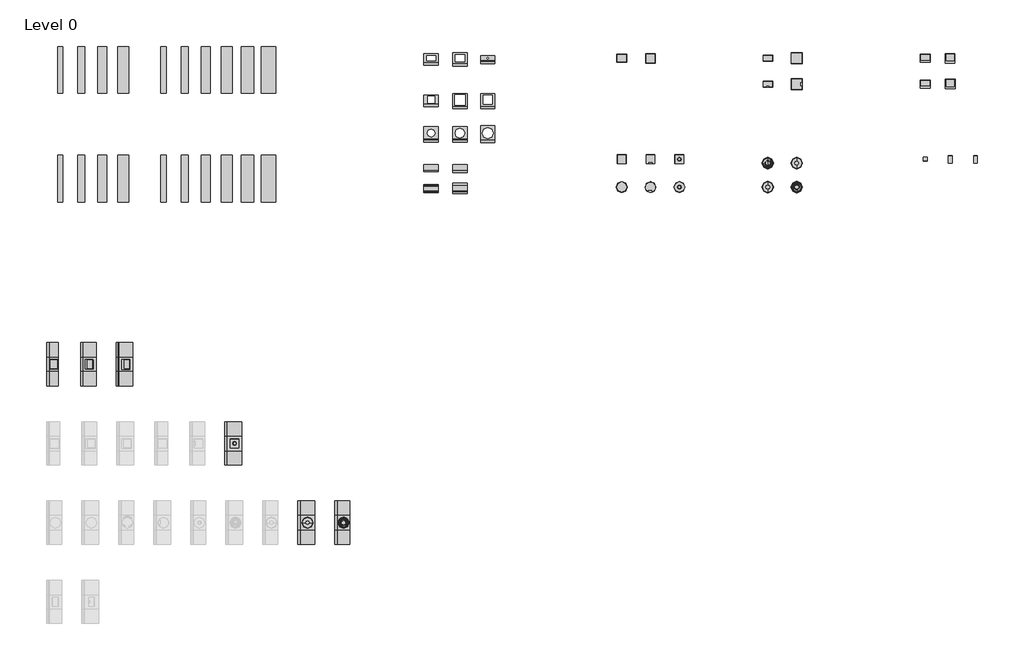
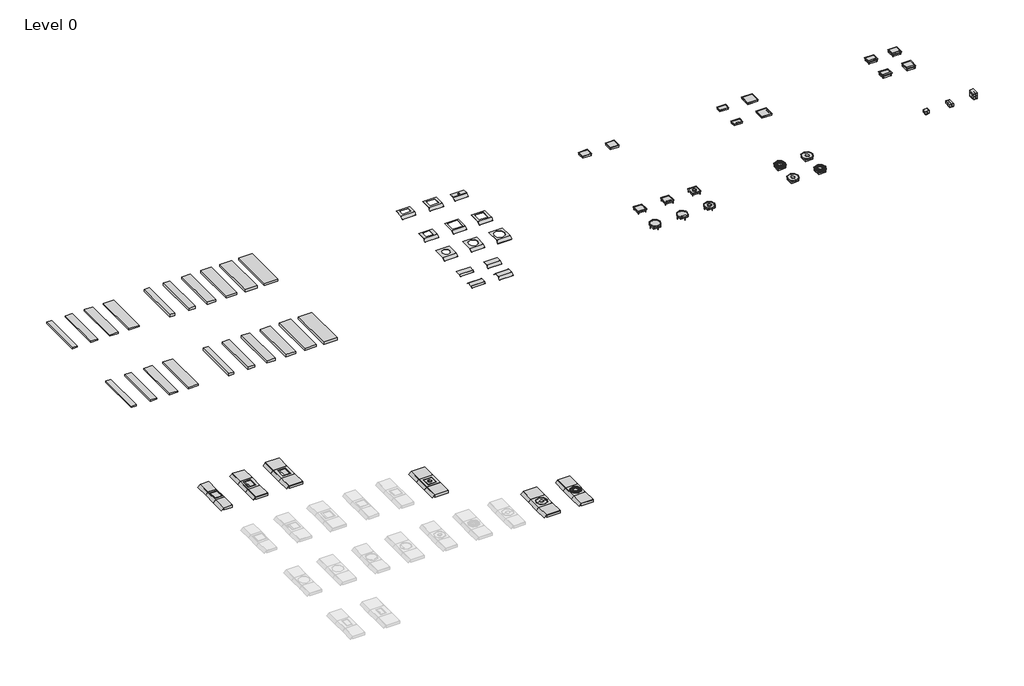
# One storey, part 2 of 2: 60 proxies, 26 cable carrier segments.
"""IFC4 building model written with IfcOpenShell, lengths in millimetres."""

from ifc_helpers import new_model, si_unit, frame, origin, place, context, project, spatial, polyline, outline, extrude, transform, mapped, element, save
from components import electrical_fixtures_814ce579, electrical_fixtures_1408edab, electrical_fixtures_f748b149, electrical_fixtures_7f43b690, electrical_fixtures_50cfb48d, electrical_fixtures_1099af83, electrical_fixtures_e29cb0aa, electrical_fixtures_057aeb0d, electrical_fixtures_bc096a6a, electrical_fixtures_bc675c06, electrical_fixtures_8ed366d0, electrical_fixtures_62458b07, electrical_fixtures_8427cab8, electrical_fixtures_ad2855bb, electrical_fixtures_be977d01, electrical_fixtures_2923e737, electrical_fixtures_30c5370d, electrical_fixtures_dd45cec8, electrical_fixtures_c0643166, electrical_fixtures_3a1a2a50, electrical_fixtures_6b5bff6d, electrical_fixtures_38a7e8f5, electrical_fixtures_79a94ea6, electrical_fixtures_345be723, electrical_fixtures_05cc857e, electrical_fixtures_ba14407c, electrical_fixtures_65cdaa76, electrical_fixtures_59ef84c7, electrical_fixtures_09e81cb8, color_deep_black_c4cdae59, color_deep_black_3e0b7094, color_deep_black_f01a6ed9, color_deep_black_c19cb628, color_deep_black_fa90bbad, color_deep_black_919f03ab, color_iron_grey_872dce2f, color_iron_grey_09ea9520, stainless_steel_cassette_q12_bl_outer_height_28mm_38aa1d54, stainless_steel_cassette_q12_le_outer_height_28mm_4387def9, stainless_steel_cassette_q12_tm_outer_height_28mm_6e70061e, stainless_steel_cassette_r12_bl_outer_height_28mm_40ef087e, stainless_steel_cassette_r12_le_outer_height_28mm_8af35c53, stainless_steel_cassette_r12_tm_outer_height_28mm_dc089dfa

model = new_model("IFC4")

# Units and contexts
model_context = context("Model", 3, world=origin())
ifc_project = project(units=[si_unit("LENGTHUNIT", "METRE", prefix="MILLI")], contexts=[model_context])

# Site, building, storey
site = spatial("IfcSite", under=ifc_project)
building = spatial("IfcBuilding", under=site)
storey = spatial("IfcBuildingStorey", under=building, Name="Level 0", Elevation=0.0)

# Proxies
placement = place(None, origin())
electrical_fixtures_shape = electrical_fixtures_814ce579(model_context)
element("IfcBuildingElementProxy", 1, Name="Electrical_Installation_Hager_Covers-With-Installation-Opening-Q12 : Electrical_Installation_Hager_Covers-With-Installation-Opening-Q12", ObjectType="Electrical_Installation_Hager_Covers-With-Installation-Opening-Q12 : Electrical_Installation_Hager_Covers-With-Installation-Opening-Q12", at=placement, inside=storey, context=model_context, shape_type="MappedRepresentation", body=[
    mapped(electrical_fixtures_shape, transform((-12658.3941097, 8330.9530457, 0.0), x_axis=(1.0, 0.0, 0.0), y_axis=(0.0, 1.0, 0.0), z_axis=(0.0, 0.0, 1.0))),
])
electrical_fixtures_2_shape = electrical_fixtures_1408edab(model_context)
element("IfcBuildingElementProxy", 2, Name="Electrical_Installation_Hager_Covers-With-Installation-Opening-Q12 : Electrical_Installation_Hager_Covers-With-Installation-Opening-Q12", ObjectType="Electrical_Installation_Hager_Covers-With-Installation-Opening-Q12 : Electrical_Installation_Hager_Covers-With-Installation-Opening-Q12", at=placement, inside=storey, context=model_context, shape_type="MappedRepresentation", body=[
    mapped(electrical_fixtures_2_shape, transform((-19489.0073184, -1020.0103905, 0.0), x_axis=(0.0, -1.0, 0.0), y_axis=(1.0, 0.0, 0.0), z_axis=(0.0, 0.0, 1.0))),
])
electrical_fixtures_3_shape = electrical_fixtures_f748b149(model_context)
element("IfcBuildingElementProxy", 3, Name="Electrical_Installation_Hager_Blank-Cover-400mm-Single-Sided-Height-40mm : Electrical_Installation_Hager_Blank-Cover-400mm-Single-Sided-Height-40mm", ObjectType="Electrical_Installation_Hager_Blank-Cover-400mm-Single-Sided-Height-40mm : Electrical_Installation_Hager_Blank-Cover-400mm-Single-Sided-Height-40mm", at=placement, inside=storey, context=model_context, shape_type="MappedRepresentation", body=[
    mapped(electrical_fixtures_3_shape, transform((-14229.7859667, 6453.397014, 0.0), x_axis=(1.0, 0.0, 0.0), y_axis=(0.0, 1.0, 0.0), z_axis=(0.0, 0.0, 1.0))),
])
electrical_fixtures_4_shape = electrical_fixtures_7f43b690(model_context)
element("IfcBuildingElementProxy", 4, Name="Electrical_Installation_Hager_Blank-Cover-400mm-Double-Sided-Height-40mm : Electrical_Installation_Hager_Blank-Cover-400mm-Double-Sided-Height-40mm", ObjectType="Electrical_Installation_Hager_Blank-Cover-400mm-Double-Sided-Height-40mm : Electrical_Installation_Hager_Blank-Cover-400mm-Double-Sided-Height-40mm", at=placement, inside=storey, context=model_context, shape_type="MappedRepresentation", body=[
    mapped(electrical_fixtures_4_shape, transform((-14229.7859667, 5863.3856687, 0.0), x_axis=(1.0, 0.0, 0.0), y_axis=(0.0, 1.0, 0.0), z_axis=(0.0, 0.0, 1.0))),
])
electrical_fixtures_5_shape = electrical_fixtures_50cfb48d(model_context)
element("IfcBuildingElementProxy", 5, Name="Electrical_Installation_Hager_Blank-Cover-400mm-Single-Sided-Height-70mm : Electrical_Installation_Hager_Blank-Cover-400mm-Single-Sided-Height-70mm", ObjectType="Electrical_Installation_Hager_Blank-Cover-400mm-Single-Sided-Height-70mm : Electrical_Installation_Hager_Blank-Cover-400mm-Single-Sided-Height-70mm", at=placement, inside=storey, context=model_context, shape_type="MappedRepresentation", body=[
    mapped(electrical_fixtures_5_shape, transform((-13429.9997932, 6453.397014, 0.0), x_axis=(1.0, 0.0, 0.0), y_axis=(0.0, 1.0, 0.0), z_axis=(0.0, 0.0, 1.0))),
])
electrical_fixtures_6_shape = electrical_fixtures_1099af83(model_context)
element("IfcBuildingElementProxy", 6, Name="Electrical_Installation_Hager_Blank-Cover-400mm-Double-Sided-Height-70mm : Electrical_Installation_Hager_Blank-Cover-400mm-Double-Sided-Height-70mm", ObjectType="Electrical_Installation_Hager_Blank-Cover-400mm-Double-Sided-Height-70mm : Electrical_Installation_Hager_Blank-Cover-400mm-Double-Sided-Height-70mm", at=placement, inside=storey, context=model_context, shape_type="MappedRepresentation", body=[
    mapped(electrical_fixtures_6_shape, transform((-13429.9997932, 5863.3856687, 0.0), x_axis=(1.0, 0.0, 0.0), y_axis=(0.0, 1.0, 0.0), z_axis=(0.0, 0.0, 1.0))),
])
electrical_fixtures_7_shape = electrical_fixtures_e29cb0aa(model_context)
element("IfcBuildingElementProxy", 7, Name="Electrical_Installation_Hager_VE-EE_VANR_3mm_Service-unit-for-wet-cleaned-floors-for-the-installation-tube-cable-outlet-made-of-aluminium : Service unit R12 w set HB wet Al-Tub 3mm", ObjectType="Electrical_Installation_Hager_VE-EE_VANR_3mm_Service-unit-for-wet-cleaned-floors-for-the-installation-tube-cable-outlet-made-of-aluminium : Service unit R12 w set HB wet Al-Tub 3mm", at=placement, inside=storey, context=model_context, shape_type="MappedRepresentation", body=[
    mapped(electrical_fixtures_7_shape, transform((-4682.6162347, 5905.3165763, 0.0), x_axis=(1.0, 0.0, 0.0), y_axis=(0.0, 1.0, 0.0), z_axis=(0.0, 0.0, 1.0))),
])
element("IfcBuildingElementProxy", 8, Name="Electrical_Installation_Hager_VE-EE_VANR_3mm_Service-unit-for-wet-cleaned-floors-with-tube-cable-outlete-made-of-polyamide : Service unit R12 w set HB wet PA-T Al 3mm", ObjectType="Electrical_Installation_Hager_VE-EE_VANR_3mm_Service-unit-for-wet-cleaned-floors-with-tube-cable-outlete-made-of-polyamide : Service unit R12 w set HB wet PA-T Al 3mm", at=placement, inside=storey, context=model_context, shape_type="MappedRepresentation", body=[
    mapped(electrical_fixtures_7_shape, transform((-3882.6162347, 6567.9548196, 0.0), x_axis=(1.0, 0.0, 0.0), y_axis=(0.0, 1.0, 0.0), z_axis=(0.0, 0.0, 1.0))),
])
element("IfcBuildingElementProxy", 9, Name="Electrical_Installation_Hager_VE-EE_VANR_3mm_Service-unit-for-wet-cleaned-floors-with-tube-cable-outlete-made-of-polyamide : Service unit R12 w set HB wet PA-T Al 3mm", ObjectType="Electrical_Installation_Hager_VE-EE_VANR_3mm_Service-unit-for-wet-cleaned-floors-with-tube-cable-outlete-made-of-polyamide : Service unit R12 w set HB wet PA-T Al 3mm", at=placement, inside=storey, context=model_context, shape_type="MappedRepresentation", body=[
    mapped(electrical_fixtures_7_shape, transform((-17464.0073184, -3420.0103905, 40.5), x_axis=(0.0, -1.0, 0.0), y_axis=(1.0, 0.0, 0.0), z_axis=(0.0, 0.0, 1.0))),
])
electrical_fixtures_8_shape = electrical_fixtures_057aeb0d(model_context)
element("IfcBuildingElementProxy", 10, Name="Electrical_Installation_Hager_VE-EE_VANR-Service-unit-for-wet-cleaned-floors-for-the-installation-tube-cable-outlet-made-of-aluminium : Service unit R12 w set HB wet Al-Tub R", ObjectType="Electrical_Installation_Hager_VE-EE_VANR-Service-unit-for-wet-cleaned-floors-for-the-installation-tube-cable-outlet-made-of-aluminium : Service unit R12 w set HB wet Al-Tub R", at=placement, inside=storey, context=model_context, shape_type="MappedRepresentation", body=[
    mapped(electrical_fixtures_8_shape, transform((-4682.6162347, 6567.9548196, 0.0), x_axis=(1.0, 0.0, 0.0), y_axis=(0.0, 1.0, 0.0), z_axis=(0.0, 0.0, 1.0))),
])
electrical_fixtures_9_shape = electrical_fixtures_bc096a6a(model_context)
element("IfcBuildingElementProxy", 11, Name="Electrical_Installation_Hager_VE-EE_VANR-Service-unit-for-wet-cleaned-floors-with-tube-cable-outlete-made-of-polyamide : Service unit R12 w set HB wet PA-Tub Al R", ObjectType="Electrical_Installation_Hager_VE-EE_VANR-Service-unit-for-wet-cleaned-floors-with-tube-cable-outlete-made-of-polyamide : Service unit R12 w set HB wet PA-Tub Al R", at=placement, inside=storey, context=model_context, shape_type="MappedRepresentation", body=[
    mapped(electrical_fixtures_9_shape, transform((-3882.6162347, 5905.3165763, 0.0), x_axis=(1.0, 0.0, 0.0), y_axis=(0.0, 1.0, 0.0), z_axis=(0.0, 0.0, 1.0))),
])
element("IfcBuildingElementProxy", 12, Name="Electrical_Installation_Hager_VE-EE_VANR-Service-unit-for-wet-cleaned-floors-with-tube-cable-outlete-made-of-polyamide : Service unit R12 w set HB wet PA-Tub Al R", ObjectType="Electrical_Installation_Hager_VE-EE_VANR-Service-unit-for-wet-cleaned-floors-with-tube-cable-outlete-made-of-polyamide : Service unit R12 w set HB wet PA-Tub Al R", at=placement, inside=storey, context=model_context, shape_type="MappedRepresentation", body=[
    mapped(electrical_fixtures_9_shape, transform((-16464.0073184, -3420.0103905, 40.5), x_axis=(0.0, -1.0, 0.0), y_axis=(1.0, 0.0, 0.0), z_axis=(0.0, 0.0, 1.0))),
])
electrical_fixtures_10_shape = electrical_fixtures_bc675c06(model_context)
element("IfcBuildingElementProxy", 13, Name="Electrical_Installation_Hager_VE-EE_Pedestal-box-2 : GB pedestal box 2 inst. fields iron gray", ObjectType="Electrical_Installation_Hager_VE-EE_Pedestal-box-2 : GB pedestal box 2 inst. fields iron gray", at=placement, inside=storey, context=model_context, shape_type="MappedRepresentation", body=[
    mapped(electrical_fixtures_10_shape, transform((-310.3272563, 6678.4632376, 0.0), x_axis=(1.0, 0.0, 0.0), y_axis=(0.0, 1.0, 0.0), z_axis=(0.0, 0.0, 1.0))),
])
electrical_fixtures_11_shape = electrical_fixtures_8ed366d0(model_context)
element("IfcBuildingElementProxy", 14, Name="Electrical_Installation_Hager_VE-EE_Pedestal-box-4 : GB pedestal box 4 inst. fields iron gray", ObjectType="Electrical_Installation_Hager_VE-EE_Pedestal-box-4 : GB pedestal box 4 inst. fields iron gray", at=placement, inside=storey, context=model_context, shape_type="MappedRepresentation", body=[
    mapped(electrical_fixtures_11_shape, transform((381.3992861, 6678.4632376, 0.0), x_axis=(1.0, 0.0, 0.0), y_axis=(0.0, 1.0, 0.0), z_axis=(0.0, 0.0, 1.0))),
])
electrical_fixtures_12_shape = electrical_fixtures_62458b07(model_context)
element("IfcBuildingElementProxy", 15, Name="Electrical_Installation_Hager_VE-EE_Service-unit-VE09-made-of-stainless-steel : Electrical_Installation_Hager_VE-EE_Service-unit-VE09-made-of-stainless-steel", ObjectType="Electrical_Installation_Hager_VE-EE_Service-unit-VE09-made-of-stainless-steel : Electrical_Installation_Hager_VE-EE_Service-unit-VE09-made-of-stainless-steel", at=placement, inside=storey, context=model_context, shape_type="MappedRepresentation", body=[
    mapped(electrical_fixtures_12_shape, transform((-310.3272563, 8765.7204535, 0.0), x_axis=(1.0, 0.0, 0.0), y_axis=(0.0, 1.0, 0.0), z_axis=(0.0, 0.0, 1.0))),
])
element("IfcBuildingElementProxy", 16, Name="Electrical_Installation_Hager_VE-EE_Service-unit-VE09-made-of-stainless-steel : Electrical_Installation_Hager_VE-EE_Service-unit-VE09-made-of-stainless-steel", ObjectType="Electrical_Installation_Hager_VE-EE_Service-unit-VE09-made-of-stainless-steel : Electrical_Installation_Hager_VE-EE_Service-unit-VE09-made-of-stainless-steel", at=placement, inside=storey, context=model_context, shape_type="MappedRepresentation", body=[
    mapped(electrical_fixtures_12_shape, transform((-22509.7913984, 979.9896095, 40.5), x_axis=(0.0, -1.0, 0.0), y_axis=(1.0, 0.0, 0.0), z_axis=(0.0, 0.0, 1.0))),
])
electrical_fixtures_13_shape = electrical_fixtures_8427cab8(model_context)
element("IfcBuildingElementProxy", 17, Name="Electrical_Installation_Hager_VE-EE_Service-unit-VQ12-made-of-stainless-steel : Electrical_Installation_Hager_VE-EE_Service-unit-VQ12-made-of-stainless-steel", ObjectType="Electrical_Installation_Hager_VE-EE_Service-unit-VQ12-made-of-stainless-steel : Electrical_Installation_Hager_VE-EE_Service-unit-VQ12-made-of-stainless-steel", at=placement, inside=storey, context=model_context, shape_type="MappedRepresentation", body=[
    mapped(electrical_fixtures_13_shape, transform((381.3992861, 8765.7204535, 0.0), x_axis=(1.0, 0.0, 0.0), y_axis=(0.0, 1.0, 0.0), z_axis=(0.0, 0.0, 1.0))),
])
electrical_fixtures_14_shape = electrical_fixtures_ad2855bb(model_context)
element("IfcBuildingElementProxy", 18, Name="Electrical_Installation_Hager_Covers-With-Installation-Opening-E09 : Electrical_Installation_Hager_Covers-With-Installation-Opening-E09", ObjectType="Electrical_Installation_Hager_Covers-With-Installation-Opening-E09 : Electrical_Installation_Hager_Covers-With-Installation-Opening-E09", at=placement, inside=storey, context=model_context, shape_type="MappedRepresentation", body=[
    mapped(electrical_fixtures_14_shape, transform((-23509.7913984, 1179.9896095, 0.0), x_axis=(0.0, -1.0, 0.0), y_axis=(1.0, 0.0, 0.0), z_axis=(0.0, 0.0, 1.0))),
])
electrical_fixtures_15_shape = electrical_fixtures_be977d01(model_context)
element("IfcBuildingElementProxy", 19, Name="Electrical_Installation_Hager_Covers-With-Installation-Opening-Q06 : Electrical_Installation_Hager_Covers-With-Installation-Opening-Q06", ObjectType="Electrical_Installation_Hager_Covers-With-Installation-Opening-Q06 : Electrical_Installation_Hager_Covers-With-Installation-Opening-Q06", at=placement, inside=storey, context=model_context, shape_type="MappedRepresentation", body=[
    mapped(electrical_fixtures_15_shape, transform((-14229.7859667, 8330.9530457, 0.0), x_axis=(1.0, 0.0, 0.0), y_axis=(0.0, 1.0, 0.0), z_axis=(0.0, 0.0, 1.0))),
])
electrical_fixtures_16_shape = electrical_fixtures_2923e737(model_context)
element("IfcBuildingElementProxy", 20, Name="Electrical_Installation_Hager_Covers-With-Installation-Opening-Q08 : Electrical_Installation_Hager_Covers-With-Installation-Opening-Q08", ObjectType="Electrical_Installation_Hager_Covers-With-Installation-Opening-Q08 : Electrical_Installation_Hager_Covers-With-Installation-Opening-Q08", at=placement, inside=storey, context=model_context, shape_type="MappedRepresentation", body=[
    mapped(electrical_fixtures_16_shape, transform((-13429.9997932, 8330.9530457, 0.0), x_axis=(1.0, 0.0, 0.0), y_axis=(0.0, 1.0, 0.0), z_axis=(0.0, 0.0, 1.0))),
])
electrical_fixtures_17_shape = electrical_fixtures_30c5370d(model_context)
element("IfcBuildingElementProxy", 21, Name="Electrical_Installation_Hager_Covers-With-Installation-Opening-R06 : Electrical_Installation_Hager_Covers-With-Installation-Opening-R06", ObjectType="Electrical_Installation_Hager_Covers-With-Installation-Opening-R06 : Electrical_Installation_Hager_Covers-With-Installation-Opening-R06", at=placement, inside=storey, context=model_context, shape_type="MappedRepresentation", body=[
    mapped(electrical_fixtures_17_shape, transform((-14229.7859667, 7405.0262255, 0.0), x_axis=(1.0, 0.0, 0.0), y_axis=(0.0, 1.0, 0.0), z_axis=(0.0, 0.0, 1.0))),
])
electrical_fixtures_18_shape = electrical_fixtures_dd45cec8(model_context)
element("IfcBuildingElementProxy", 22, Name="Electrical_Installation_Hager_VE-EE_Pedestal-box-8 : GB pedestal box 8 inst. fields iron gray", ObjectType="Electrical_Installation_Hager_VE-EE_Pedestal-box-8 : GB pedestal box 8 inst. fields iron gray", at=placement, inside=storey, context=model_context, shape_type="MappedRepresentation", body=[
    mapped(electrical_fixtures_18_shape, transform((1083.4672401, 6678.4632376, 0.0), x_axis=(1.0, 0.0, 0.0), y_axis=(0.0, 1.0, 0.0), z_axis=(0.0, 0.0, 1.0))),
])
electrical_fixtures_19_shape = electrical_fixtures_c0643166(model_context)
element("IfcBuildingElementProxy", 23, Name="Electrical_Installation_Hager_Covers-With-Installation-Opening-R10 : Electrical_Installation_Hager_Covers-With-Installation-Opening-R10", ObjectType="Electrical_Installation_Hager_Covers-With-Installation-Opening-R10 : Electrical_Installation_Hager_Covers-With-Installation-Opening-R10", at=placement, inside=storey, context=model_context, shape_type="MappedRepresentation", body=[
    mapped(electrical_fixtures_19_shape, transform((-13429.9997932, 7405.0262255, 0.0), x_axis=(1.0, 0.0, 0.0), y_axis=(0.0, 1.0, 0.0), z_axis=(0.0, 0.0, 1.0))),
])
electrical_fixtures_20_shape = electrical_fixtures_3a1a2a50(model_context)
element("IfcBuildingElementProxy", 24, Name="Electrical_Installation_Hager_Covers-With-Installation-Opening-R12 : Electrical_Installation_Hager_Covers-With-Installation-Opening-R12", ObjectType="Electrical_Installation_Hager_Covers-With-Installation-Opening-R12 : Electrical_Installation_Hager_Covers-With-Installation-Opening-R12", at=placement, inside=storey, context=model_context, shape_type="MappedRepresentation", body=[
    mapped(electrical_fixtures_20_shape, transform((-12658.3941097, 7405.0262255, 0.0), x_axis=(1.0, 0.0, 0.0), y_axis=(0.0, 1.0, 0.0), z_axis=(0.0, 0.0, 1.0))),
])
electrical_fixtures_21_shape = electrical_fixtures_6b5bff6d(model_context)
element("IfcBuildingElementProxy", 25, Name="Electrical_Installation_Hager_Covers-With-Installation-Opening-R12 : Electrical_Installation_Hager_Covers-With-Installation-Opening-R12", ObjectType="Electrical_Installation_Hager_Covers-With-Installation-Opening-R12 : Electrical_Installation_Hager_Covers-With-Installation-Opening-R12", at=placement, inside=storey, context=model_context, shape_type="MappedRepresentation", body=[
    mapped(electrical_fixtures_21_shape, transform((-16464.0073184, -3220.0103905, 0.0), x_axis=(0.0, -1.0, 0.0), y_axis=(1.0, 0.0, 0.0), z_axis=(0.0, 0.0, 1.0))),
])
element("IfcBuildingElementProxy", 26, Name="Electrical_Installation_Hager_Covers-With-Installation-Opening-R12 : Electrical_Installation_Hager_Covers-With-Installation-Opening-R12", ObjectType="Electrical_Installation_Hager_Covers-With-Installation-Opening-R12 : Electrical_Installation_Hager_Covers-With-Installation-Opening-R12", at=placement, inside=storey, context=model_context, shape_type="MappedRepresentation", body=[
    mapped(electrical_fixtures_20_shape, transform((-17464.0073184, -3220.0103905, 0.0), x_axis=(0.0, -1.0, 0.0), y_axis=(1.0, 0.0, 0.0), z_axis=(0.0, 0.0, 1.0))),
])
electrical_fixtures_22_shape = electrical_fixtures_38a7e8f5(model_context)
element("IfcBuildingElementProxy", 27, Name="Electrical_Installation_Hager_Blank-Cover-400mm-Single-Sided-Height-70mm : Electrical_Installation_Hager_Blank-Cover-400mm-Single-Sided-Height-70mm", ObjectType="Electrical_Installation_Hager_Blank-Cover-400mm-Single-Sided-Height-70mm : Electrical_Installation_Hager_Blank-Cover-400mm-Single-Sided-Height-70mm", at=placement, inside=storey, context=model_context, shape_type="MappedRepresentation", body=[
    mapped(electrical_fixtures_22_shape, transform((-24509.7913984, 1579.9896095, 0.0), x_axis=(0.0, -1.0, 0.0), y_axis=(1.0, 0.0, 0.0), z_axis=(0.0, 0.0, 1.0))),
])
element("IfcBuildingElementProxy", 28, Name="Electrical_Installation_Hager_Blank-Cover-400mm-Single-Sided-Height-70mm : Electrical_Installation_Hager_Blank-Cover-400mm-Single-Sided-Height-70mm", ObjectType="Electrical_Installation_Hager_Blank-Cover-400mm-Single-Sided-Height-70mm : Electrical_Installation_Hager_Blank-Cover-400mm-Single-Sided-Height-70mm", at=placement, inside=storey, context=model_context, shape_type="MappedRepresentation", body=[
    mapped(electrical_fixtures_22_shape, transform((-24509.7913984, 779.9896095, 0.0), x_axis=(0.0, -1.0, 0.0), y_axis=(1.0, 0.0, 0.0), z_axis=(0.0, 0.0, 1.0))),
])
electrical_fixtures_23_shape = electrical_fixtures_79a94ea6(model_context)
element("IfcBuildingElementProxy", 29, Name="Electrical_Installation_Hager_Blank-Cover-400mm-Single-Sided-Height-70mm : Electrical_Installation_Hager_Blank-Cover-400mm-Single-Sided-Height-70mm", ObjectType="Electrical_Installation_Hager_Blank-Cover-400mm-Single-Sided-Height-70mm : Electrical_Installation_Hager_Blank-Cover-400mm-Single-Sided-Height-70mm", at=placement, inside=storey, context=model_context, shape_type="MappedRepresentation", body=[
    mapped(electrical_fixtures_23_shape, transform((-23509.7913984, 1579.9896095, 0.0), x_axis=(0.0, -1.0, 0.0), y_axis=(1.0, 0.0, 0.0), z_axis=(0.0, 0.0, 1.0))),
])
element("IfcBuildingElementProxy", 30, Name="Electrical_Installation_Hager_Blank-Cover-400mm-Single-Sided-Height-70mm : Electrical_Installation_Hager_Blank-Cover-400mm-Single-Sided-Height-70mm", ObjectType="Electrical_Installation_Hager_Blank-Cover-400mm-Single-Sided-Height-70mm : Electrical_Installation_Hager_Blank-Cover-400mm-Single-Sided-Height-70mm", at=placement, inside=storey, context=model_context, shape_type="MappedRepresentation", body=[
    mapped(electrical_fixtures_23_shape, transform((-23509.7913984, 779.9896095, 0.0), x_axis=(0.0, -1.0, 0.0), y_axis=(1.0, 0.0, 0.0), z_axis=(0.0, 0.0, 1.0))),
])
element("IfcBuildingElementProxy", 31, Name="Electrical_Installation_Hager_Blank-Cover-400mm-Single-Sided-Height-70mm : Electrical_Installation_Hager_Blank-Cover-400mm-Single-Sided-Height-70mm", ObjectType="Electrical_Installation_Hager_Blank-Cover-400mm-Single-Sided-Height-70mm : Electrical_Installation_Hager_Blank-Cover-400mm-Single-Sided-Height-70mm", at=placement, inside=storey, context=model_context, shape_type="MappedRepresentation", body=[
    mapped(electrical_fixtures_23_shape, transform((-16464.0073184, -2820.0103905, 0.0), x_axis=(0.0, -1.0, 0.0), y_axis=(1.0, 0.0, 0.0), z_axis=(0.0, 0.0, 1.0))),
])
element("IfcBuildingElementProxy", 32, Name="Electrical_Installation_Hager_Blank-Cover-400mm-Single-Sided-Height-70mm : Electrical_Installation_Hager_Blank-Cover-400mm-Single-Sided-Height-70mm", ObjectType="Electrical_Installation_Hager_Blank-Cover-400mm-Single-Sided-Height-70mm : Electrical_Installation_Hager_Blank-Cover-400mm-Single-Sided-Height-70mm", at=placement, inside=storey, context=model_context, shape_type="MappedRepresentation", body=[
    mapped(electrical_fixtures_23_shape, transform((-16464.0073184, -3620.0103905, 0.0), x_axis=(0.0, -1.0, 0.0), y_axis=(1.0, 0.0, 0.0), z_axis=(0.0, 0.0, 1.0))),
])
electrical_fixtures_24_shape = electrical_fixtures_345be723(model_context)
element("IfcBuildingElementProxy", 33, Name="Electrical_Installation_Hager_Blank-Cover-400mm-Single-Sided-Height-70mm : Electrical_Installation_Hager_Blank-Cover-400mm-Single-Sided-Height-70mm", ObjectType="Electrical_Installation_Hager_Blank-Cover-400mm-Single-Sided-Height-70mm : Electrical_Installation_Hager_Blank-Cover-400mm-Single-Sided-Height-70mm", at=placement, inside=storey, context=model_context, shape_type="MappedRepresentation", body=[
    mapped(electrical_fixtures_24_shape, transform((-22509.7913984, 1579.9896095, 0.0), x_axis=(0.0, -1.0, 0.0), y_axis=(1.0, 0.0, 0.0), z_axis=(0.0, 0.0, 1.0))),
])
element("IfcBuildingElementProxy", 34, Name="Electrical_Installation_Hager_Blank-Cover-400mm-Single-Sided-Height-70mm : Electrical_Installation_Hager_Blank-Cover-400mm-Single-Sided-Height-70mm", ObjectType="Electrical_Installation_Hager_Blank-Cover-400mm-Single-Sided-Height-70mm : Electrical_Installation_Hager_Blank-Cover-400mm-Single-Sided-Height-70mm", at=placement, inside=storey, context=model_context, shape_type="MappedRepresentation", body=[
    mapped(electrical_fixtures_24_shape, transform((-22509.7913984, 779.9896095, 0.0), x_axis=(0.0, -1.0, 0.0), y_axis=(1.0, 0.0, 0.0), z_axis=(0.0, 0.0, 1.0))),
])
element("IfcBuildingElementProxy", 35, Name="Electrical_Installation_Hager_Blank-Cover-400mm-Single-Sided-Height-70mm : Electrical_Installation_Hager_Blank-Cover-400mm-Single-Sided-Height-70mm", ObjectType="Electrical_Installation_Hager_Blank-Cover-400mm-Single-Sided-Height-70mm : Electrical_Installation_Hager_Blank-Cover-400mm-Single-Sided-Height-70mm", at=placement, inside=storey, context=model_context, shape_type="MappedRepresentation", body=[
    mapped(electrical_fixtures_24_shape, transform((-19489.0073184, -620.0103905, 0.0), x_axis=(0.0, -1.0, 0.0), y_axis=(1.0, 0.0, 0.0), z_axis=(0.0, 0.0, 1.0))),
])
element("IfcBuildingElementProxy", 36, Name="Electrical_Installation_Hager_Blank-Cover-400mm-Single-Sided-Height-70mm : Electrical_Installation_Hager_Blank-Cover-400mm-Single-Sided-Height-70mm", ObjectType="Electrical_Installation_Hager_Blank-Cover-400mm-Single-Sided-Height-70mm : Electrical_Installation_Hager_Blank-Cover-400mm-Single-Sided-Height-70mm", at=placement, inside=storey, context=model_context, shape_type="MappedRepresentation", body=[
    mapped(electrical_fixtures_24_shape, transform((-19489.0073184, -1420.0103905, 0.0), x_axis=(0.0, -1.0, 0.0), y_axis=(1.0, 0.0, 0.0), z_axis=(0.0, 0.0, 1.0))),
])
element("IfcBuildingElementProxy", 37, Name="Electrical_Installation_Hager_Blank-Cover-400mm-Single-Sided-Height-70mm : Electrical_Installation_Hager_Blank-Cover-400mm-Single-Sided-Height-70mm", ObjectType="Electrical_Installation_Hager_Blank-Cover-400mm-Single-Sided-Height-70mm : Electrical_Installation_Hager_Blank-Cover-400mm-Single-Sided-Height-70mm", at=placement, inside=storey, context=model_context, shape_type="MappedRepresentation", body=[
    mapped(electrical_fixtures_24_shape, transform((-17464.0073184, -2820.0103905, 0.0), x_axis=(0.0, -1.0, 0.0), y_axis=(1.0, 0.0, 0.0), z_axis=(0.0, 0.0, 1.0))),
])
element("IfcBuildingElementProxy", 38, Name="Electrical_Installation_Hager_Blank-Cover-400mm-Single-Sided-Height-70mm : Electrical_Installation_Hager_Blank-Cover-400mm-Single-Sided-Height-70mm", ObjectType="Electrical_Installation_Hager_Blank-Cover-400mm-Single-Sided-Height-70mm : Electrical_Installation_Hager_Blank-Cover-400mm-Single-Sided-Height-70mm", at=placement, inside=storey, context=model_context, shape_type="MappedRepresentation", body=[
    mapped(electrical_fixtures_24_shape, transform((-17464.0073184, -3620.0103905, 0.0), x_axis=(0.0, -1.0, 0.0), y_axis=(1.0, 0.0, 0.0), z_axis=(0.0, 0.0, 1.0))),
])
electrical_fixtures_25_shape = electrical_fixtures_05cc857e(model_context)
element("IfcBuildingElementProxy", 39, Name="Electrical_Installation_Hager_Covers-With-Installation-Opening-E04 : Electrical_Installation_Hager_Covers-With-Installation-Opening-E04", ObjectType="Electrical_Installation_Hager_Covers-With-Installation-Opening-E04 : Electrical_Installation_Hager_Covers-With-Installation-Opening-E04", at=placement, inside=storey, context=model_context, shape_type="MappedRepresentation", body=[
    mapped(electrical_fixtures_25_shape, transform((-14229.7859667, 9484.2786149, 0.0), x_axis=(1.0, 0.0, 0.0), y_axis=(0.0, 1.0, 0.0), z_axis=(0.0, 0.0, 1.0))),
])
electrical_fixtures_26_shape = electrical_fixtures_ba14407c(model_context)
element("IfcBuildingElementProxy", 40, Name="Electrical_Installation_Hager_Covers-With-Installation-Opening-E09 : Electrical_Installation_Hager_Covers-With-Installation-Opening-E09", ObjectType="Electrical_Installation_Hager_Covers-With-Installation-Opening-E09 : Electrical_Installation_Hager_Covers-With-Installation-Opening-E09", at=placement, inside=storey, context=model_context, shape_type="MappedRepresentation", body=[
    mapped(electrical_fixtures_26_shape, transform((-13429.9997932, 9484.2786149, 0.0), x_axis=(1.0, 0.0, 0.0), y_axis=(0.0, 1.0, 0.0), z_axis=(0.0, 0.0, 1.0))),
])
electrical_fixtures_27_shape = electrical_fixtures_65cdaa76(model_context)
element("IfcBuildingElementProxy", 41, Name="Electrical_Installation_Hager_Covers-With-Installation-Opening-E09 : Electrical_Installation_Hager_Covers-With-Installation-Opening-E09", ObjectType="Electrical_Installation_Hager_Covers-With-Installation-Opening-E09 : Electrical_Installation_Hager_Covers-With-Installation-Opening-E09", at=placement, inside=storey, context=model_context, shape_type="MappedRepresentation", body=[
    mapped(electrical_fixtures_27_shape, transform((-24509.7913984, 1179.9896095, 0.0), x_axis=(0.0, -1.0, 0.0), y_axis=(1.0, 0.0, 0.0), z_axis=(0.0, 0.0, 1.0))),
])
electrical_fixtures_28_shape = electrical_fixtures_59ef84c7(model_context)
element("IfcBuildingElementProxy", 42, Name="Electrical_Installation_Hager_Covers-With-Installation-Opening-E09 : Electrical_Installation_Hager_Covers-With-Installation-Opening-E09", ObjectType="Electrical_Installation_Hager_Covers-With-Installation-Opening-E09 : Electrical_Installation_Hager_Covers-With-Installation-Opening-E09", at=placement, inside=storey, context=model_context, shape_type="MappedRepresentation", body=[
    mapped(electrical_fixtures_28_shape, transform((-22509.7913984, 1179.9896095, 0.0), x_axis=(0.0, -1.0, 0.0), y_axis=(1.0, 0.0, 0.0), z_axis=(0.0, 0.0, 1.0))),
])
electrical_fixtures_29_shape = electrical_fixtures_09e81cb8(model_context)
element("IfcBuildingElementProxy", 43, Name="Electrical_Installation_Hager_Covers-With-Installation-Opening-GBZ : Electrical_Installation_Hager_Covers-With-Installation-Opening-GBZ", ObjectType="Electrical_Installation_Hager_Covers-With-Installation-Opening-GBZ : Electrical_Installation_Hager_Covers-With-Installation-Opening-GBZ", at=placement, inside=storey, context=model_context, shape_type="MappedRepresentation", body=[
    mapped(electrical_fixtures_29_shape, transform((-12658.3941097, 9484.2786149, 0.0), x_axis=(1.0, 0.0, 0.0), y_axis=(0.0, 1.0, 0.0), z_axis=(0.0, 0.0, 1.0))),
])
color_deep_black_shape = color_deep_black_c4cdae59(model_context)
element("IfcBuildingElementProxy", 44, Name="Electrical_Installation_Hager_VE-EE_Cover-BDE04 : Color Deep Black", ObjectType="Electrical_Installation_Hager_VE-EE_Cover-BDE04 : Color Deep Black", at=placement, inside=storey, context=model_context, shape_type="MappedRepresentation", body=[
    mapped(color_deep_black_shape, transform((-4682.6162347, 9484.2786149, 0.0), x_axis=(1.0, 0.0, 0.0), y_axis=(0.0, 1.0, 0.0), z_axis=(0.0, 0.0, 1.0))),
])
color_deep_black_2_shape = color_deep_black_3e0b7094(model_context)
element("IfcBuildingElementProxy", 45, Name="Electrical_Installation_Hager_VE-EE_Cover-BDQ08 : Color Deep Black", ObjectType="Electrical_Installation_Hager_VE-EE_Cover-BDQ08 : Color Deep Black", at=placement, inside=storey, context=model_context, shape_type="MappedRepresentation", body=[
    mapped(color_deep_black_2_shape, transform((-3882.6162347, 9484.2786149, 0.0), x_axis=(1.0, 0.0, 0.0), y_axis=(0.0, 1.0, 0.0), z_axis=(0.0, 0.0, 1.0))),
])
color_deep_black_3_shape = color_deep_black_f01a6ed9(model_context)
element("IfcBuildingElementProxy", 46, Name="Electrical_Installation_Hager_VE-EE_Cover-KDQ08 : Color Deep Black", ObjectType="Electrical_Installation_Hager_VE-EE_Cover-KDQ08 : Color Deep Black", at=placement, inside=storey, context=model_context, shape_type="MappedRepresentation", body=[
    mapped(color_deep_black_3_shape, transform((-3882.6162347, 8765.7204535, 0.0), x_axis=(1.0, 0.0, 0.0), y_axis=(0.0, 1.0, 0.0), z_axis=(0.0, 0.0, 1.0))),
])
color_deep_black_4_shape = color_deep_black_c19cb628(model_context)
element("IfcBuildingElementProxy", 47, Name="Electrical_Installation_Hager_VE-EE_Cover-VDQ12 : Color Deep Black", ObjectType="Electrical_Installation_Hager_VE-EE_Cover-VDQ12 : Color Deep Black", at=placement, inside=storey, context=model_context, shape_type="MappedRepresentation", body=[
    mapped(color_deep_black_4_shape, transform((-7938.7858421, 9484.2786149, 0.0), x_axis=(1.0, 0.0, 0.0), y_axis=(0.0, 1.0, 0.0), z_axis=(0.0, 0.0, 1.0))),
])
color_deep_black_5_shape = color_deep_black_fa90bbad(model_context)
element("IfcBuildingElementProxy", 48, Name="Electrical_Installation_Hager_VE-EE_Service-Unit-VQ12 : Color Deep Black", ObjectType="Electrical_Installation_Hager_VE-EE_Service-Unit-VQ12 : Color Deep Black", at=placement, inside=storey, context=model_context, shape_type="MappedRepresentation", body=[
    mapped(color_deep_black_5_shape, transform((381.3992861, 9484.2786149, 0.0), x_axis=(1.0, 0.0, 0.0), y_axis=(0.0, 1.0, 0.0), z_axis=(0.0, 0.0, 1.0))),
])
color_deep_black_6_shape = color_deep_black_919f03ab(model_context)
element("IfcBuildingElementProxy", 49, Name="Electrical_Installation_Hager_VE-EE_Cover-KDE04 : Color Deep Black", ObjectType="Electrical_Installation_Hager_VE-EE_Cover-KDE04 : Color Deep Black", at=placement, inside=storey, context=model_context, shape_type="MappedRepresentation", body=[
    mapped(color_deep_black_6_shape, transform((-4682.6162347, 8765.7204535, 0.0), x_axis=(1.0, 0.0, 0.0), y_axis=(0.0, 1.0, 0.0), z_axis=(0.0, 0.0, 1.0))),
])
color_iron_grey_shape = color_iron_grey_872dce2f(model_context)
element("IfcBuildingElementProxy", 50, Name="Electrical_Installation_Hager_VE-EE_Cover-VDE09 : Color Iron Grey", ObjectType="Electrical_Installation_Hager_VE-EE_Cover-VDE09 : Color Iron Grey", at=placement, inside=storey, context=model_context, shape_type="MappedRepresentation", body=[
    mapped(color_iron_grey_shape, transform((-8738.7858421, 9484.2786149, 0.0), x_axis=(1.0, 0.0, 0.0), y_axis=(0.0, 1.0, 0.0), z_axis=(0.0, 0.0, 1.0))),
])
element("IfcBuildingElementProxy", 51, Name="Electrical_Installation_Hager_VE-EE_Cover-VDE09 : Color Iron Grey", ObjectType="Electrical_Installation_Hager_VE-EE_Cover-VDE09 : Color Iron Grey", at=placement, inside=storey, context=model_context, shape_type="MappedRepresentation", body=[
    mapped(color_iron_grey_shape, transform((-24509.7913984, 979.9896095, 40.5), x_axis=(0.0, -1.0, 0.0), y_axis=(1.0, 0.0, 0.0), z_axis=(0.0, 0.0, 1.0))),
])
color_iron_grey_2_shape = color_iron_grey_09ea9520(model_context)
element("IfcBuildingElementProxy", 52, Name="Electrical_Installation_Hager_VE-EE_Service-unit-VE09 : Color Iron Grey", ObjectType="Electrical_Installation_Hager_VE-EE_Service-unit-VE09 : Color Iron Grey", at=placement, inside=storey, context=model_context, shape_type="MappedRepresentation", body=[
    mapped(color_iron_grey_2_shape, transform((-310.3272563, 9484.2786149, 0.0), x_axis=(1.0, 0.0, 0.0), y_axis=(0.0, 1.0, 0.0), z_axis=(0.0, 0.0, 1.0))),
])
element("IfcBuildingElementProxy", 53, Name="Electrical_Installation_Hager_VE-EE_Service-unit-VE09 : Color Iron Grey", ObjectType="Electrical_Installation_Hager_VE-EE_Service-unit-VE09 : Color Iron Grey", at=placement, inside=storey, context=model_context, shape_type="MappedRepresentation", body=[
    mapped(color_iron_grey_2_shape, transform((-23529.7913984, 979.9896095, 40.5), x_axis=(0.0, -1.0, 0.0), y_axis=(1.0, 0.0, 0.0), z_axis=(0.0, 0.0, 1.0))),
])
stainless_steel_cassette_q12_bl_outer_height_28mm_shape = stainless_steel_cassette_q12_bl_outer_height_28mm_38aa1d54(model_context)
element("IfcBuildingElementProxy", 54, Name="Electrical_Installation_Hager_VE-EE_EKQ-Height-adjustable-stainless-steel-cassette-blank-square-for-damp-cleaned-floors : Stainless-steel cassette Q12 BL outer height 28mm", ObjectType="Electrical_Installation_Hager_VE-EE_EKQ-Height-adjustable-stainless-steel-cassette-blank-square-for-damp-cleaned-floors : Stainless-steel cassette Q12 BL outer height 28mm", at=placement, inside=storey, context=model_context, shape_type="MappedRepresentation", body=[
    mapped(stainless_steel_cassette_q12_bl_outer_height_28mm_shape, transform((-8738.7858421, 6678.4632376, 0.0), x_axis=(1.0, 0.0, 0.0), y_axis=(0.0, 1.0, 0.0), z_axis=(0.0, 0.0, 1.0))),
])
stainless_steel_cassette_q12_le_outer_height_28mm_shape = stainless_steel_cassette_q12_le_outer_height_28mm_4387def9(model_context)
element("IfcBuildingElementProxy", 55, Name="Electrical_Installation_Hager_VE-EE_EKQ-Height-adjustable-stainless-steel-cassette-with-cable-outlet-square-for-dry-cleaned-floors : Stainless-steel cassette Q12 LE outer height 28mm", ObjectType="Electrical_Installation_Hager_VE-EE_EKQ-Height-adjustable-stainless-steel-cassette-with-cable-outlet-square-for-dry-cleaned-floors : Stainless-steel cassette Q12 LE outer height 28mm", at=placement, inside=storey, context=model_context, shape_type="MappedRepresentation", body=[
    mapped(stainless_steel_cassette_q12_le_outer_height_28mm_shape, transform((-7938.7858421, 6678.4632376, 0.0), x_axis=(1.0, 0.0, 0.0), y_axis=(0.0, 1.0, 0.0), z_axis=(0.0, 0.0, 1.0))),
])
stainless_steel_cassette_q12_tm_outer_height_28mm_shape = stainless_steel_cassette_q12_tm_outer_height_28mm_6e70061e(model_context)
element("IfcBuildingElementProxy", 56, Name="Electrical_Installation_Hager_VE-EE_EKQ-Height-adjustable-stainless-steel-cassette-with-tube-mounting-set-square-for-damp-cleaned-floors : Stainless-steel cassette Q12 TM outer height 28mm", ObjectType="Electrical_Installation_Hager_VE-EE_EKQ-Height-adjustable-stainless-steel-cassette-with-tube-mounting-set-square-for-damp-cleaned-floors : Stainless-steel cassette Q12 TM outer height 28mm", at=placement, inside=storey, context=model_context, shape_type="MappedRepresentation", body=[
    mapped(stainless_steel_cassette_q12_tm_outer_height_28mm_shape, transform((-7138.7858421, 6678.4632376, 0.0), x_axis=(1.0, 0.0, 0.0), y_axis=(0.0, 1.0, 0.0), z_axis=(0.0, 0.0, 1.0))),
])
element("IfcBuildingElementProxy", 57, Name="Electrical_Installation_Hager_VE-EE_EKQ-Height-adjustable-stainless-steel-cassette-with-tube-mounting-set-square-for-damp-cleaned-floors : Stainless-steel cassette Q12 TM outer height 28mm", ObjectType="Electrical_Installation_Hager_VE-EE_EKQ-Height-adjustable-stainless-steel-cassette-with-tube-mounting-set-square-for-damp-cleaned-floors : Stainless-steel cassette Q12 TM outer height 28mm", at=placement, inside=storey, context=model_context, shape_type="MappedRepresentation", body=[
    mapped(stainless_steel_cassette_q12_tm_outer_height_28mm_shape, transform((-19489.0073184, -1220.0103905, 40.5), x_axis=(0.0, -1.0, 0.0), y_axis=(1.0, 0.0, 0.0), z_axis=(0.0, 0.0, 1.0))),
])
stainless_steel_cassette_r12_bl_outer_height_28mm_shape = stainless_steel_cassette_r12_bl_outer_height_28mm_40ef087e(model_context)
element("IfcBuildingElementProxy", 58, Name="Electrical_Installation_Hager_VE-EE_EKR-Height-adjustable-stainless-steel-cassette-blank-round-for-damp-cleaned-floors : Stainless-steel cassette R12 BL outer height 28mm", ObjectType="Electrical_Installation_Hager_VE-EE_EKR-Height-adjustable-stainless-steel-cassette-blank-round-for-damp-cleaned-floors : Stainless-steel cassette R12 BL outer height 28mm", at=placement, inside=storey, context=model_context, shape_type="MappedRepresentation", body=[
    mapped(stainless_steel_cassette_r12_bl_outer_height_28mm_shape, transform((-8738.7858421, 5905.3165763, 0.0), x_axis=(1.0, 0.0, 0.0), y_axis=(0.0, 1.0, 0.0), z_axis=(0.0, 0.0, 1.0))),
])
stainless_steel_cassette_r12_le_outer_height_28mm_shape = stainless_steel_cassette_r12_le_outer_height_28mm_8af35c53(model_context)
element("IfcBuildingElementProxy", 59, Name="Electrical_Installation_Hager_VE-EE_EKR-Height-adjustable-stainless-steel-cassette-with-square-cable-outlet-for-dry-cleaned-floors : Stainless-steel cassette R12 LE outer height 28mm", ObjectType="Electrical_Installation_Hager_VE-EE_EKR-Height-adjustable-stainless-steel-cassette-with-square-cable-outlet-for-dry-cleaned-floors : Stainless-steel cassette R12 LE outer height 28mm", at=placement, inside=storey, context=model_context, shape_type="MappedRepresentation", body=[
    mapped(stainless_steel_cassette_r12_le_outer_height_28mm_shape, transform((-7938.7858421, 5905.3165763, 0.0), x_axis=(1.0, 0.0, 0.0), y_axis=(0.0, 1.0, 0.0), z_axis=(0.0, 0.0, 1.0))),
])
stainless_steel_cassette_r12_tm_outer_height_28mm_shape = stainless_steel_cassette_r12_tm_outer_height_28mm_dc089dfa(model_context)
element("IfcBuildingElementProxy", 60, Name="Electrical_Installation_Hager_VE-EE_EKR-Height-adjustable-stainless-steel-cassette-with-tube-mounting-set-round-for-damp-cleaned-floors : Stainless-steel cassette R12 TM outer height 28mm", ObjectType="Electrical_Installation_Hager_VE-EE_EKR-Height-adjustable-stainless-steel-cassette-with-tube-mounting-set-round-for-damp-cleaned-floors : Stainless-steel cassette R12 TM outer height 28mm", at=placement, inside=storey, context=model_context, shape_type="MappedRepresentation", body=[
    mapped(stainless_steel_cassette_r12_tm_outer_height_28mm_shape, transform((-7138.7858421, 5905.3165763, 0.0), x_axis=(1.0, 0.0, 0.0), y_axis=(0.0, 1.0, 0.0), z_axis=(0.0, 0.0, 1.0))),
])

# Cable carrier segments
element("IfcCableCarrierSegment", 61, ObjectType="Electrical_Installations_Cable-Trays_Hager_Trunking-Lower-Part-Single-Sided", at=placement, inside=storey, context=model_context, shape_type="SweptSolid", body=[
    extrude(outline(polyline([(-24404.7476815, 9810.4515282), (-24254.7476815, 9810.4515282), (-24254.7476815, 8510.4515282), (-24404.7476815, 8510.4515282), (-24404.7476815, 9810.4515282)])), frame((0.0, 0.0, -20.0), z_axis=(0.0, 0.0, 1.0), x_axis=(1.0, 0.0, 0.0)), (0.0, 0.0, 1.0), 40.0),
])
element("IfcCableCarrierSegment", 62, ObjectType="Electrical_Installations_Cable-Trays_Hager_Trunking-Lower-Part-Single-Sided", at=placement, inside=storey, context=model_context, shape_type="SweptSolid", body=[
    extrude(outline(polyline([(-23846.7492958, 9810.4515282), (-23646.7492958, 9810.4515282), (-23646.7492958, 8510.4515282), (-23846.7492958, 8510.4515282), (-23846.7492958, 9810.4515282)])), frame((0.0, 0.0, -20.0), z_axis=(0.0, 0.0, 1.0), x_axis=(1.0, 0.0, 0.0)), (0.0, 0.0, 1.0), 40.0),
])
element("IfcCableCarrierSegment", 63, ObjectType="Electrical_Installations_Cable-Trays_Hager_Trunking-Lower-Part-Single-Sided", at=placement, inside=storey, context=model_context, shape_type="SweptSolid", body=[
    extrude(outline(polyline([(-23288.7509101, 9810.4515282), (-23038.7509101, 9810.4515282), (-23038.7509101, 8510.4515282), (-23288.7509101, 8510.4515282), (-23288.7509101, 9810.4515282)])), frame((0.0, 0.0, -20.0), z_axis=(0.0, 0.0, 1.0), x_axis=(1.0, 0.0, 0.0)), (0.0, 0.0, 1.0), 40.0),
])
element("IfcCableCarrierSegment", 64, ObjectType="Electrical_Installations_Cable-Trays_Hager_Trunking-Lower-Part-Single-Sided", at=placement, inside=storey, context=model_context, shape_type="SweptSolid", body=[
    extrude(outline(polyline([(-22730.7525244, 9810.4515282), (-22430.7525244, 9810.4515282), (-22430.7525244, 8510.4515282), (-22730.7525244, 8510.4515282), (-22730.7525244, 9810.4515282)])), frame((0.0, 0.0, -20.0), z_axis=(0.0, 0.0, 1.0), x_axis=(1.0, 0.0, 0.0)), (0.0, 0.0, 1.0), 40.0),
])
element("IfcCableCarrierSegment", 65, ObjectType="Electrical_Installations_Cable-Trays_Hager_Trunking-Lower-Part-Single-Sided", at=placement, inside=storey, context=model_context, shape_type="SweptSolid", body=[
    extrude(outline(polyline([(-21532.7541386, 9810.4515282), (-21382.7541386, 9810.4515282), (-21382.7541386, 8510.4515282), (-21532.7541386, 8510.4515282), (-21532.7541386, 9810.4515282)])), frame((0.0, 0.0, -35.0), z_axis=(0.0, 0.0, 1.0), x_axis=(1.0, 0.0, 0.0)), (0.0, 0.0, 1.0), 70.0),
])
element("IfcCableCarrierSegment", 66, ObjectType="Electrical_Installations_Cable-Trays_Hager_Trunking-Lower-Part-Single-Sided", at=placement, inside=storey, context=model_context, shape_type="SweptSolid", body=[
    extrude(outline(polyline([(-20974.7557529, 9810.4515282), (-20774.7557529, 9810.4515282), (-20774.7557529, 8510.4515282), (-20974.7557529, 8510.4515282), (-20974.7557529, 9810.4515282)])), frame((0.0, 0.0, -35.0), z_axis=(0.0, 0.0, 1.0), x_axis=(1.0, 0.0, 0.0)), (0.0, 0.0, 1.0), 70.0),
])
element("IfcCableCarrierSegment", 67, ObjectType="Electrical_Installations_Cable-Trays_Hager_Trunking-Lower-Part-Single-Sided", at=placement, inside=storey, context=model_context, shape_type="SweptSolid", body=[
    extrude(outline(polyline([(-20416.7573672, 9810.4515282), (-20166.7573672, 9810.4515282), (-20166.7573672, 8510.4515282), (-20416.7573672, 8510.4515282), (-20416.7573672, 9810.4515282)])), frame((0.0, 0.0, -35.0), z_axis=(0.0, 0.0, 1.0), x_axis=(1.0, 0.0, 0.0)), (0.0, 0.0, 1.0), 70.0),
])
element("IfcCableCarrierSegment", 68, ObjectType="Electrical_Installations_Cable-Trays_Hager_Trunking-Lower-Part-Single-Sided", at=placement, inside=storey, context=model_context, shape_type="SweptSolid", body=[
    extrude(outline(polyline([(-19858.7589815, 9810.4515282), (-19558.7589815, 9810.4515282), (-19558.7589815, 8510.4515282), (-19858.7589815, 8510.4515282), (-19858.7589815, 9810.4515282)])), frame((0.0, 0.0, -35.0), z_axis=(0.0, 0.0, 1.0), x_axis=(1.0, 0.0, 0.0)), (0.0, 0.0, 1.0), 70.0),
])
element("IfcCableCarrierSegment", 69, ObjectType="Electrical_Installations_Cable-Trays_Hager_Trunking-Lower-Part-Single-Sided", at=placement, inside=storey, context=model_context, shape_type="SweptSolid", body=[
    extrude(outline(polyline([(-19300.7605957, 9810.4515282), (-18950.7605957, 9810.4515282), (-18950.7605957, 8510.4515282), (-19300.7605957, 8510.4515282), (-19300.7605957, 9810.4515282)])), frame((0.0, 0.0, -35.0), z_axis=(0.0, 0.0, 1.0), x_axis=(1.0, 0.0, 0.0)), (0.0, 0.0, 1.0), 70.0),
])
element("IfcCableCarrierSegment", 70, ObjectType="Electrical_Installations_Cable-Trays_Hager_Trunking-Lower-Part-Single-Sided", at=placement, inside=storey, context=model_context, shape_type="SweptSolid", body=[
    extrude(outline(polyline([(-18742.76221, 9810.4515282), (-18342.76221, 9810.4515282), (-18342.76221, 8510.4515282), (-18742.76221, 8510.4515282), (-18742.76221, 9810.4515282)])), frame((0.0, 0.0, -35.0), z_axis=(0.0, 0.0, 1.0), x_axis=(1.0, 0.0, 0.0)), (0.0, 0.0, 1.0), 70.0),
])
element("IfcCableCarrierSegment", 71, ObjectType="Electrical_Installations_Cable-Trays_Hager_Trunking-Lower-Part-Double-Sided", at=placement, inside=storey, context=model_context, shape_type="SweptSolid", body=[
    extrude(outline(polyline([(-24404.7476815, 6790.4515282), (-24254.7476815, 6790.4515282), (-24254.7476815, 5490.4515282), (-24404.7476815, 5490.4515282), (-24404.7476815, 6790.4515282)])), frame((0.0, 0.0, -20.0), z_axis=(0.0, 0.0, 1.0), x_axis=(1.0, 0.0, 0.0)), (0.0, 0.0, 1.0), 40.0),
])
element("IfcCableCarrierSegment", 72, ObjectType="Electrical_Installations_Cable-Trays_Hager_Trunking-Lower-Part-Double-Sided", at=placement, inside=storey, context=model_context, shape_type="SweptSolid", body=[
    extrude(outline(polyline([(-23846.7492958, 6790.4515282), (-23646.7492958, 6790.4515282), (-23646.7492958, 5490.4515282), (-23846.7492958, 5490.4515282), (-23846.7492958, 6790.4515282)])), frame((0.0, 0.0, -20.0), z_axis=(0.0, 0.0, 1.0), x_axis=(1.0, 0.0, 0.0)), (0.0, 0.0, 1.0), 40.0),
])
element("IfcCableCarrierSegment", 73, ObjectType="Electrical_Installations_Cable-Trays_Hager_Trunking-Lower-Part-Double-Sided", at=placement, inside=storey, context=model_context, shape_type="SweptSolid", body=[
    extrude(outline(polyline([(-23288.7509101, 6790.4515282), (-23038.7509101, 6790.4515282), (-23038.7509101, 5490.4515282), (-23288.7509101, 5490.4515282), (-23288.7509101, 6790.4515282)])), frame((0.0, 0.0, -20.0), z_axis=(0.0, 0.0, 1.0), x_axis=(1.0, 0.0, 0.0)), (0.0, 0.0, 1.0), 40.0),
])
element("IfcCableCarrierSegment", 74, ObjectType="Electrical_Installations_Cable-Trays_Hager_Trunking-Lower-Part-Double-Sided", at=placement, inside=storey, context=model_context, shape_type="SweptSolid", body=[
    extrude(outline(polyline([(-22730.7525244, 6790.4515282), (-22430.7525244, 6790.4515282), (-22430.7525244, 5490.4515282), (-22730.7525244, 5490.4515282), (-22730.7525244, 6790.4515282)])), frame((0.0, 0.0, -20.0), z_axis=(0.0, 0.0, 1.0), x_axis=(1.0, 0.0, 0.0)), (0.0, 0.0, 1.0), 40.0),
])
element("IfcCableCarrierSegment", 75, ObjectType="Electrical_Installations_Cable-Trays_Hager_Trunking-Lower-Part-Double-Sided", at=placement, inside=storey, context=model_context, shape_type="SweptSolid", body=[
    extrude(outline(polyline([(-21532.7541386, 6790.4515282), (-21382.7541386, 6790.4515282), (-21382.7541386, 5490.4515282), (-21532.7541386, 5490.4515282), (-21532.7541386, 6790.4515282)])), frame((0.0, 0.0, -35.0), z_axis=(0.0, 0.0, 1.0), x_axis=(1.0, 0.0, 0.0)), (0.0, 0.0, 1.0), 70.0),
])
element("IfcCableCarrierSegment", 76, ObjectType="Electrical_Installations_Cable-Trays_Hager_Trunking-Lower-Part-Double-Sided", at=placement, inside=storey, context=model_context, shape_type="SweptSolid", body=[
    extrude(outline(polyline([(-20974.7557529, 6790.4515282), (-20774.7557529, 6790.4515282), (-20774.7557529, 5490.4515282), (-20974.7557529, 5490.4515282), (-20974.7557529, 6790.4515282)])), frame((0.0, 0.0, -35.0), z_axis=(0.0, 0.0, 1.0), x_axis=(1.0, 0.0, 0.0)), (0.0, 0.0, 1.0), 70.0),
])
element("IfcCableCarrierSegment", 77, ObjectType="Electrical_Installations_Cable-Trays_Hager_Trunking-Lower-Part-Double-Sided", at=placement, inside=storey, context=model_context, shape_type="SweptSolid", body=[
    extrude(outline(polyline([(-20416.7573672, 6790.4515282), (-20166.7573672, 6790.4515282), (-20166.7573672, 5490.4515282), (-20416.7573672, 5490.4515282), (-20416.7573672, 6790.4515282)])), frame((0.0, 0.0, -35.0), z_axis=(0.0, 0.0, 1.0), x_axis=(1.0, 0.0, 0.0)), (0.0, 0.0, 1.0), 70.0),
])
element("IfcCableCarrierSegment", 78, ObjectType="Electrical_Installations_Cable-Trays_Hager_Trunking-Lower-Part-Double-Sided", at=placement, inside=storey, context=model_context, shape_type="SweptSolid", body=[
    extrude(outline(polyline([(-19858.7589815, 6790.4515282), (-19558.7589815, 6790.4515282), (-19558.7589815, 5490.4515282), (-19858.7589815, 5490.4515282), (-19858.7589815, 6790.4515282)])), frame((0.0, 0.0, -35.0), z_axis=(0.0, 0.0, 1.0), x_axis=(1.0, 0.0, 0.0)), (0.0, 0.0, 1.0), 70.0),
])
element("IfcCableCarrierSegment", 79, ObjectType="Electrical_Installations_Cable-Trays_Hager_Trunking-Lower-Part-Double-Sided", at=placement, inside=storey, context=model_context, shape_type="SweptSolid", body=[
    extrude(outline(polyline([(-19300.7605957, 6790.4515282), (-18950.7605957, 6790.4515282), (-18950.7605957, 5490.4515282), (-19300.7605957, 5490.4515282), (-19300.7605957, 6790.4515282)])), frame((0.0, 0.0, -35.0), z_axis=(0.0, 0.0, 1.0), x_axis=(1.0, 0.0, 0.0)), (0.0, 0.0, 1.0), 70.0),
])
element("IfcCableCarrierSegment", 80, ObjectType="Electrical_Installations_Cable-Trays_Hager_Trunking-Lower-Part-Double-Sided", at=placement, inside=storey, context=model_context, shape_type="SweptSolid", body=[
    extrude(outline(polyline([(-18742.76221, 6790.4515282), (-18342.76221, 6790.4515282), (-18342.76221, 5490.4515282), (-18742.76221, 5490.4515282), (-18742.76221, 6790.4515282)])), frame((0.0, 0.0, -35.0), z_axis=(0.0, 0.0, 1.0), x_axis=(1.0, 0.0, 0.0)), (0.0, 0.0, 1.0), 70.0),
])
element("IfcCableCarrierSegment", 81, ObjectType="Electrical_Installations_Cable-Trays_Hager_Trunking-Lower-Part-Single-Sided", at=placement, inside=storey, context=model_context, shape_type="SweptSolid", body=[
    extrude(outline(polyline([(-24634.7913984, 1579.9896095), (-24384.7913984, 1579.9896095), (-24384.7913984, 379.9896095), (-24634.7913984, 379.9896095), (-24634.7913984, 1579.9896095)])), frame((0.0, 0.0, -35.0), z_axis=(0.0, 0.0, 1.0), x_axis=(1.0, 0.0, 0.0)), (0.0, 0.0, 1.0), 70.0),
])
element("IfcCableCarrierSegment", 82, ObjectType="Electrical_Installations_Cable-Trays_Hager_Trunking-Lower-Part-Single-Sided", at=placement, inside=storey, context=model_context, shape_type="SweptSolid", body=[
    extrude(outline(polyline([(-23684.7913984, 1579.9896095), (-23334.7913984, 1579.9896095), (-23334.7913984, 379.9896095), (-23684.7913984, 379.9896095), (-23684.7913984, 1579.9896095)])), frame((0.0, 0.0, -35.0), z_axis=(0.0, 0.0, 1.0), x_axis=(1.0, 0.0, 0.0)), (0.0, 0.0, 1.0), 70.0),
])
element("IfcCableCarrierSegment", 83, ObjectType="Electrical_Installations_Cable-Trays_Hager_Trunking-Lower-Part-Single-Sided", at=placement, inside=storey, context=model_context, shape_type="SweptSolid", body=[
    extrude(outline(polyline([(-22709.7913984, 1579.9896095), (-22309.7913984, 1579.9896095), (-22309.7913984, 379.9896095), (-22709.7913984, 379.9896095), (-22709.7913984, 1579.9896095)])), frame((0.0, 0.0, -35.0), z_axis=(0.0, 0.0, 1.0), x_axis=(1.0, 0.0, 0.0)), (0.0, 0.0, 1.0), 70.0),
])
element("IfcCableCarrierSegment", 84, ObjectType="Electrical_Installations_Cable-Trays_Hager_Trunking-Lower-Part-Single-Sided", at=placement, inside=storey, context=model_context, shape_type="SweptSolid", body=[
    extrude(outline(polyline([(-19689.0073184, -620.0103905), (-19289.0073184, -620.0103905), (-19289.0073184, -1820.0103905), (-19689.0073184, -1820.0103905), (-19689.0073184, -620.0103905)])), frame((0.0, 0.0, -35.0), z_axis=(0.0, 0.0, 1.0), x_axis=(1.0, 0.0, 0.0)), (0.0, 0.0, 1.0), 70.0),
])
element("IfcCableCarrierSegment", 85, ObjectType="Electrical_Installations_Cable-Trays_Hager_Trunking-Lower-Part-Single-Sided", at=placement, inside=storey, context=model_context, shape_type="SweptSolid", body=[
    extrude(outline(polyline([(-17664.0073184, -2820.0103905), (-17264.0073184, -2820.0103905), (-17264.0073184, -4020.0103905), (-17664.0073184, -4020.0103905), (-17664.0073184, -2820.0103905)])), frame((0.0, 0.0, -35.0), z_axis=(0.0, 0.0, 1.0), x_axis=(1.0, 0.0, 0.0)), (0.0, 0.0, 1.0), 70.0),
])
element("IfcCableCarrierSegment", 86, ObjectType="Electrical_Installations_Cable-Trays_Hager_Trunking-Lower-Part-Single-Sided", at=placement, inside=storey, context=model_context, shape_type="SweptSolid", body=[
    extrude(outline(polyline([(-16639.0073184, -2820.0103905), (-16289.0073184, -2820.0103905), (-16289.0073184, -4020.0103905), (-16639.0073184, -4020.0103905), (-16639.0073184, -2820.0103905)])), frame((0.0, 0.0, -35.0), z_axis=(0.0, 0.0, 1.0), x_axis=(1.0, 0.0, 0.0)), (0.0, 0.0, 1.0), 70.0),
])

save(model, "model.ifc")
